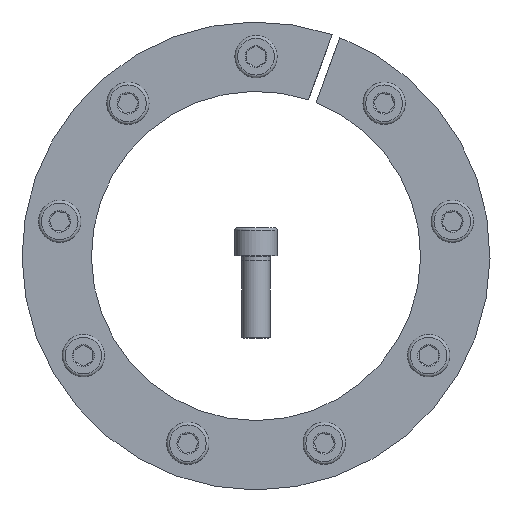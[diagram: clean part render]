
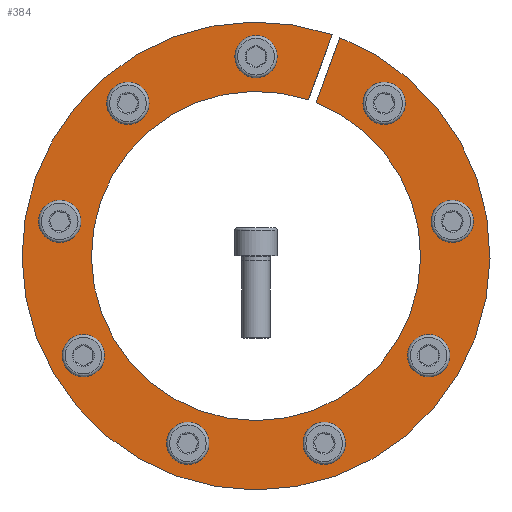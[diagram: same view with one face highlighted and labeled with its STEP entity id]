
A CAD part, front view. The second image highlights one B-rep face of the part: STEP entity #384.
In plain terms, the highlighted planar face has unit normal (0, -1, 0).
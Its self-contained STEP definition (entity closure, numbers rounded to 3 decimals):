
#384 = ADVANCED_FACE( '', ( #596, #597, #598, #599, #600, #601, #602, #603, #604, #605 ), #606, .F. );
#596 = FACE_BOUND( '', #770, .T. );
#597 = FACE_BOUND( '', #771, .T. );
#598 = FACE_BOUND( '', #772, .T. );
#599 = FACE_BOUND( '', #773, .T. );
#600 = FACE_BOUND( '', #774, .T. );
#601 = FACE_BOUND( '', #775, .T. );
#602 = FACE_BOUND( '', #776, .T. );
#603 = FACE_BOUND( '', #777, .T. );
#604 = FACE_BOUND( '', #778, .T. );
#605 = FACE_OUTER_BOUND( '', #779, .T. );
#606 = PLANE( '', #780 );
#770 = EDGE_LOOP( '', ( #983 ) );
#771 = EDGE_LOOP( '', ( #984 ) );
#772 = EDGE_LOOP( '', ( #985 ) );
#773 = EDGE_LOOP( '', ( #986 ) );
#774 = EDGE_LOOP( '', ( #987 ) );
#775 = EDGE_LOOP( '', ( #988 ) );
#776 = EDGE_LOOP( '', ( #989 ) );
#777 = EDGE_LOOP( '', ( #990 ) );
#778 = EDGE_LOOP( '', ( #991 ) );
#779 = EDGE_LOOP( '', ( #992, #993, #994, #995 ) );
#780 = AXIS2_PLACEMENT_3D( '', #996, #997, #998 );
#983 = ORIENTED_EDGE( '', *, *, #1339, .T. );
#984 = ORIENTED_EDGE( '', *, *, #1340, .T. );
#985 = ORIENTED_EDGE( '', *, *, #1341, .T. );
#986 = ORIENTED_EDGE( '', *, *, #1342, .T. );
#987 = ORIENTED_EDGE( '', *, *, #1343, .T. );
#988 = ORIENTED_EDGE( '', *, *, #1344, .T. );
#989 = ORIENTED_EDGE( '', *, *, #1345, .T. );
#990 = ORIENTED_EDGE( '', *, *, #1346, .T. );
#991 = ORIENTED_EDGE( '', *, *, #1347, .T. );
#992 = ORIENTED_EDGE( '', *, *, #1348, .T. );
#993 = ORIENTED_EDGE( '', *, *, #1349, .T. );
#994 = ORIENTED_EDGE( '', *, *, #1331, .T. );
#995 = ORIENTED_EDGE( '', *, *, #1350, .F. );
#996 = CARTESIAN_POINT( '', ( 0., 0., 99.5 ) );
#997 = DIRECTION( '', ( 0., 1., 0. ) );
#998 = DIRECTION( '', ( 0., 0., 1. ) );
#1331 = EDGE_CURVE( '', #1475, #1473, #1476, .T. );
#1339 = EDGE_CURVE( '', #1489, #1489, #1490, .T. );
#1340 = EDGE_CURVE( '', #1491, #1491, #1492, .T. );
#1341 = EDGE_CURVE( '', #1493, #1493, #1494, .T. );
#1342 = EDGE_CURVE( '', #1495, #1495, #1496, .T. );
#1343 = EDGE_CURVE( '', #1497, #1497, #1498, .T. );
#1344 = EDGE_CURVE( '', #1499, #1499, #1500, .T. );
#1345 = EDGE_CURVE( '', #1501, #1501, #1502, .T. );
#1346 = EDGE_CURVE( '', #1503, #1503, #1504, .T. );
#1347 = EDGE_CURVE( '', #1505, #1505, #1506, .T. );
#1348 = EDGE_CURVE( '', #1507, #1508, #1509, .T. );
#1349 = EDGE_CURVE( '', #1508, #1475, #1510, .T. );
#1350 = EDGE_CURVE( '', #1507, #1473, #1511, .T. );
#1473 = VERTEX_POINT( '', #1597 );
#1475 = VERTEX_POINT( '', #1600 );
#1476 = LINE( '', #1601, #1602 );
#1489 = VERTEX_POINT( '', #1626 );
#1490 = CIRCLE( '', #1627, 6. );
#1491 = VERTEX_POINT( '', #1628 );
#1492 = CIRCLE( '', #1629, 6. );
#1493 = VERTEX_POINT( '', #1630 );
#1494 = CIRCLE( '', #1631, 6. );
#1495 = VERTEX_POINT( '', #1632 );
#1496 = CIRCLE( '', #1633, 6. );
#1497 = VERTEX_POINT( '', #1634 );
#1498 = CIRCLE( '', #1635, 6. );
#1499 = VERTEX_POINT( '', #1636 );
#1500 = CIRCLE( '', #1637, 6. );
#1501 = VERTEX_POINT( '', #1638 );
#1502 = CIRCLE( '', #1639, 6. );
#1503 = VERTEX_POINT( '', #1640 );
#1504 = CIRCLE( '', #1641, 6. );
#1505 = VERTEX_POINT( '', #1642 );
#1506 = CIRCLE( '', #1643, 6. );
#1507 = VERTEX_POINT( '', #1644 );
#1508 = VERTEX_POINT( '', #1645 );
#1509 = LINE( '', #1646, #1647 );
#1510 = CIRCLE( '', #1648, 99.5 );
#1511 = CIRCLE( '', #1649, 70. );
#1597 = CARTESIAN_POINT( '', ( 25.578, 0., 65.159 ) );
#1600 = CARTESIAN_POINT( '', ( 35.67, 0., 92.886 ) );
#1601 = CARTESIAN_POINT( '', ( 35.675, 0., 92.901 ) );
#1602 = VECTOR( '', #1754, 1000. );
#1626 = CARTESIAN_POINT( '', ( -49.88, 0., 68.779 ) );
#1627 = AXIS2_PLACEMENT_3D( '', #1760, #1761, #1762 );
#1628 = CARTESIAN_POINT( '', ( -76.396, 0., -37.179 ) );
#1629 = AXIS2_PLACEMENT_3D( '', #1763, #1764, #1765 );
#1630 = CARTESIAN_POINT( '', ( 23.348, 0., -81.691 ) );
#1631 = AXIS2_PLACEMENT_3D( '', #1766, #1767, #1768 );
#1632 = CARTESIAN_POINT( '', ( 84.504, 0., 8.808 ) );
#1633 = AXIS2_PLACEMENT_3D( '', #1769, #1770, #1771 );
#1634 = CARTESIAN_POINT( '', ( 6., 0., 84.75 ) );
#1635 = AXIS2_PLACEMENT_3D( '', #1772, #1773, #1774 );
#1636 = CARTESIAN_POINT( '', ( 59.073, 0., 61.066 ) );
#1637 = AXIS2_PLACEMENT_3D( '', #1775, #1776, #1777 );
#1638 = CARTESIAN_POINT( '', ( 70.396, 0., -47.571 ) );
#1639 = AXIS2_PLACEMENT_3D( '', #1778, #1779, #1780 );
#1640 = CARTESIAN_POINT( '', ( -34.624, 0., -77.587 ) );
#1641 = AXIS2_PLACEMENT_3D( '', #1781, #1782, #1783 );
#1642 = CARTESIAN_POINT( '', ( -82.421, 0., 20.626 ) );
#1643 = AXIS2_PLACEMENT_3D( '', #1784, #1785, #1786 );
#1644 = CARTESIAN_POINT( '', ( 22.289, 0., 66.356 ) );
#1645 = CARTESIAN_POINT( '', ( 32.381, 0., 94.083 ) );
#1646 = CARTESIAN_POINT( '', ( 22.289, 0., 66.356 ) );
#1647 = VECTOR( '', #1787, 1000. );
#1648 = AXIS2_PLACEMENT_3D( '', #1788, #1789, #1790 );
#1649 = AXIS2_PLACEMENT_3D( '', #1791, #1792, #1793 );
#1754 = DIRECTION( '', ( -0.342, 0., -0.94 ) );
#1760 = CARTESIAN_POINT( '', ( -54.476, 0., 64.922 ) );
#1761 = DIRECTION( '', ( 0., 1., 0. ) );
#1762 = DIRECTION( '', ( 0.766, 0., 0.643 ) );
#1763 = CARTESIAN_POINT( '', ( -73.396, 0., -42.375 ) );
#1764 = DIRECTION( '', ( 0., 1., 0. ) );
#1765 = DIRECTION( '', ( -0.5, 0., 0.866 ) );
#1766 = CARTESIAN_POINT( '', ( 28.986, 0., -79.639 ) );
#1767 = DIRECTION( '', ( 0., 1., 0. ) );
#1768 = DIRECTION( '', ( -0.94, 0., -0.342 ) );
#1769 = CARTESIAN_POINT( '', ( 83.462, 0., 14.717 ) );
#1770 = DIRECTION( '', ( 0., 1., 0. ) );
#1771 = DIRECTION( '', ( 0.174, 0., -0.985 ) );
#1772 = CARTESIAN_POINT( '', ( 0., 0., 84.75 ) );
#1773 = DIRECTION( '', ( 0., 1., 0. ) );
#1774 = DIRECTION( '', ( 1., 0., 0. ) );
#1775 = CARTESIAN_POINT( '', ( 54.476, 0., 64.922 ) );
#1776 = DIRECTION( '', ( 0., 1., 0. ) );
#1777 = DIRECTION( '', ( 0.766, 0., -0.643 ) );
#1778 = CARTESIAN_POINT( '', ( 73.396, 0., -42.375 ) );
#1779 = DIRECTION( '', ( 0., 1., 0. ) );
#1780 = DIRECTION( '', ( -0.5, 0., -0.866 ) );
#1781 = CARTESIAN_POINT( '', ( -28.986, 0., -79.639 ) );
#1782 = DIRECTION( '', ( 0., 1., 0. ) );
#1783 = DIRECTION( '', ( -0.94, 0., 0.342 ) );
#1784 = CARTESIAN_POINT( '', ( -83.462, 0., 14.717 ) );
#1785 = DIRECTION( '', ( 0., 1., 0. ) );
#1786 = DIRECTION( '', ( 0.174, 0., 0.985 ) );
#1787 = DIRECTION( '', ( 0.342, 0., 0.94 ) );
#1788 = CARTESIAN_POINT( '', ( 0., 0., 0. ) );
#1789 = DIRECTION( '', ( 0., -1., 0. ) );
#1790 = DIRECTION( '', ( 0., 0., -1. ) );
#1791 = CARTESIAN_POINT( '', ( 0., 0., 0. ) );
#1792 = DIRECTION( '', ( 0., -1., 0. ) );
#1793 = DIRECTION( '', ( 0., 0., -1. ) );
